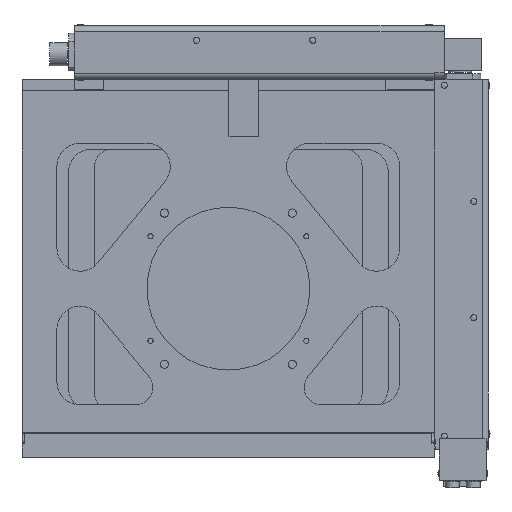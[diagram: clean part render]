
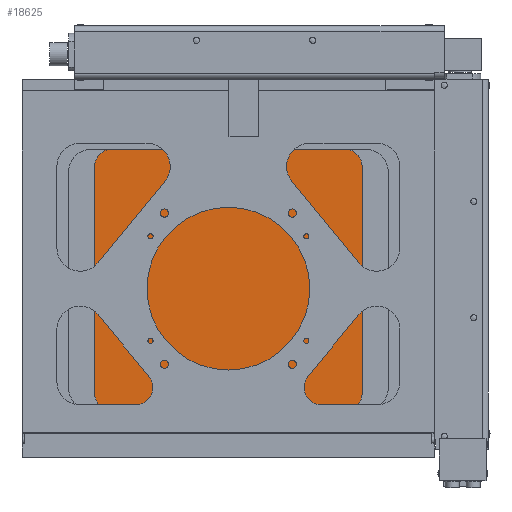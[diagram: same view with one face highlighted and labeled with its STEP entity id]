
A CAD part, front view. The second image highlights one B-rep face of the part: STEP entity #18625.
In plain terms, the highlighted planar face has unit normal (0, -1, 0).
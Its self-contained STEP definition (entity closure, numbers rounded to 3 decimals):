
#1025 = DIRECTION ( 'NONE',  ( 0., 0., 1. ) ) ;
#1209 = DIRECTION ( 'NONE',  ( -0.707, 0., 0.707 ) ) ;
#1418 = CARTESIAN_POINT ( 'NONE',  ( -120., 28.5, -115. ) ) ;
#1660 = EDGE_CURVE ( 'NONE', #5898, #6322, #17979, .T. ) ;
#1928 = VERTEX_POINT ( 'NONE', #16476 ) ;
#2191 = VERTEX_POINT ( 'NONE', #10675 ) ;
#2421 = VERTEX_POINT ( 'NONE', #1418 ) ;
#2753 = CARTESIAN_POINT ( 'NONE',  ( -120., 28.5, 135. ) ) ;
#2842 = EDGE_CURVE ( 'NONE', #2421, #1928, #7304, .T. ) ;
#2853 = DIRECTION ( 'NONE',  ( 0.707, 0., 0.707 ) ) ;
#3484 = AXIS2_PLACEMENT_3D ( 'NONE', #9139, #18155, #5887 ) ;
#4112 = CARTESIAN_POINT ( 'NONE',  ( 135., 28.5, 120. ) ) ;
#4266 = LINE ( 'NONE', #10044, #6174 ) ;
#4533 = FACE_OUTER_BOUND ( 'NONE', #18048, .T. ) ;
#4669 = LINE ( 'NONE', #15948, #6845 ) ;
#5735 = LINE ( 'NONE', #15962, #11249 ) ;
#5887 = DIRECTION ( 'NONE',  ( -0.707, 0., -0.707 ) ) ;
#5898 = VERTEX_POINT ( 'NONE', #7505 ) ;
#6174 = VECTOR ( 'NONE', #11789, 1000. ) ;
#6322 = VERTEX_POINT ( 'NONE', #18135 ) ;
#6340 = ORIENTED_EDGE ( 'NONE', *, *, #1660, .F. ) ;
#6845 = VECTOR ( 'NONE', #1025, 1000. ) ;
#7304 = LINE ( 'NONE', #17513, #7621 ) ;
#7505 = CARTESIAN_POINT ( 'NONE',  ( -120., 28.5, 135. ) ) ;
#7621 = VECTOR ( 'NONE', #1209, 1000. ) ;
#7676 = VERTEX_POINT ( 'NONE', #14819 ) ;
#8221 = CARTESIAN_POINT ( 'NONE',  ( 135., 28.5, -100. ) ) ;
#9097 = ORIENTED_EDGE ( 'NONE', *, *, #2842, .F. ) ;
#9139 = CARTESIAN_POINT ( 'NONE',  ( 130., 28.5, -95. ) ) ;
#9257 = CARTESIAN_POINT ( 'NONE',  ( -120., 28.5, 135. ) ) ;
#9640 = EDGE_CURVE ( 'NONE', #18317, #2421, #5735, .T. ) ;
#9900 = EDGE_CURVE ( 'NONE', #6322, #2191, #15936, .T. ) ;
#9986 = LINE ( 'NONE', #4112, #16982 ) ;
#10044 = CARTESIAN_POINT ( 'NONE',  ( 120., 28.5, -115. ) ) ;
#10066 = DIRECTION ( 'NONE',  ( -1., 0., 0. ) ) ;
#10675 = CARTESIAN_POINT ( 'NONE',  ( 135., 28.5, 120. ) ) ;
#11249 = VECTOR ( 'NONE', #10066, 1000. ) ;
#11410 = VECTOR ( 'NONE', #17396, 1000. ) ;
#11789 = DIRECTION ( 'NONE',  ( -0.707, 0., -0.707 ) ) ;
#12643 = EDGE_CURVE ( 'NONE', #18009, #18317, #4266, .T. ) ;
#12808 = LINE ( 'NONE', #2753, #15074 ) ;
#13174 = ORIENTED_EDGE ( 'NONE', *, *, #18000, .F. ) ;
#13793 = CARTESIAN_POINT ( 'NONE',  ( 120., 28.5, -115. ) ) ;
#13917 = ORIENTED_EDGE ( 'NONE', *, *, #9900, .F. ) ;
#14144 = EDGE_CURVE ( 'NONE', #1928, #7676, #4669, .T. ) ;
#14273 = ORIENTED_EDGE ( 'NONE', *, *, #12643, .F. ) ;
#14819 = CARTESIAN_POINT ( 'NONE',  ( -135., 28.5, 120. ) ) ;
#15074 = VECTOR ( 'NONE', #2853, 1000. ) ;
#15255 = ORIENTED_EDGE ( 'NONE', *, *, #14144, .F. ) ;
#15342 = DIRECTION ( 'NONE',  ( 1., 0., 0. ) ) ;
#15936 = LINE ( 'NONE', #19056, #11410 ) ;
#15948 = CARTESIAN_POINT ( 'NONE',  ( -135., 28.5, 120. ) ) ;
#15962 = CARTESIAN_POINT ( 'NONE',  ( -120., 28.5, -115. ) ) ;
#16476 = CARTESIAN_POINT ( 'NONE',  ( -135., 28.5, -100. ) ) ;
#16600 = PLANE ( 'NONE',  #3484 ) ;
#16633 = VECTOR ( 'NONE', #15342, 1000. ) ;
#16958 = ORIENTED_EDGE ( 'NONE', *, *, #9640, .F. ) ;
#16982 = VECTOR ( 'NONE', #18815, 1000. ) ;
#17396 = DIRECTION ( 'NONE',  ( 0.707, 0., -0.707 ) ) ;
#17513 = CARTESIAN_POINT ( 'NONE',  ( -120., 28.5, -115. ) ) ;
#17979 = LINE ( 'NONE', #9257, #16633 ) ;
#18000 = EDGE_CURVE ( 'NONE', #2191, #18009, #9986, .T. ) ;
#18009 = VERTEX_POINT ( 'NONE', #8221 ) ;
#18048 = EDGE_LOOP ( 'NONE', ( #13174, #13917, #6340, #18433, #15255, #9097, #16958, #14273 ) ) ;
#18135 = CARTESIAN_POINT ( 'NONE',  ( 120., 28.5, 135. ) ) ;
#18155 = DIRECTION ( 'NONE',  ( 0., -1., 0. ) ) ;
#18317 = VERTEX_POINT ( 'NONE', #13793 ) ;
#18433 = ORIENTED_EDGE ( 'NONE', *, *, #18512, .F. ) ;
#18512 = EDGE_CURVE ( 'NONE', #7676, #5898, #12808, .T. ) ;
#18625 = ADVANCED_FACE ( 'NONE', ( #4533 ), #16600, .T. ) ;
#18815 = DIRECTION ( 'NONE',  ( 0., 0., -1. ) ) ;
#19056 = CARTESIAN_POINT ( 'NONE',  ( 120., 28.5, 135. ) ) ;
